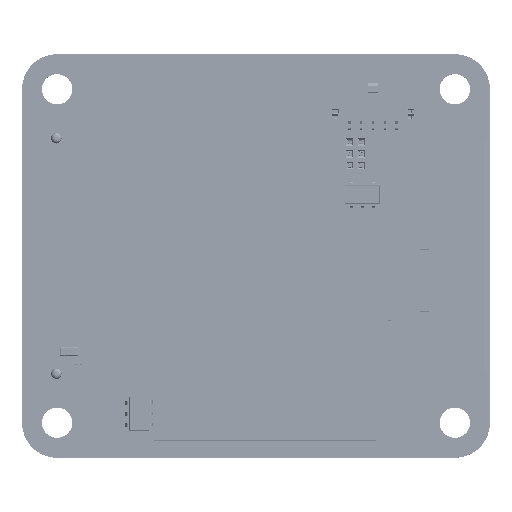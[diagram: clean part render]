
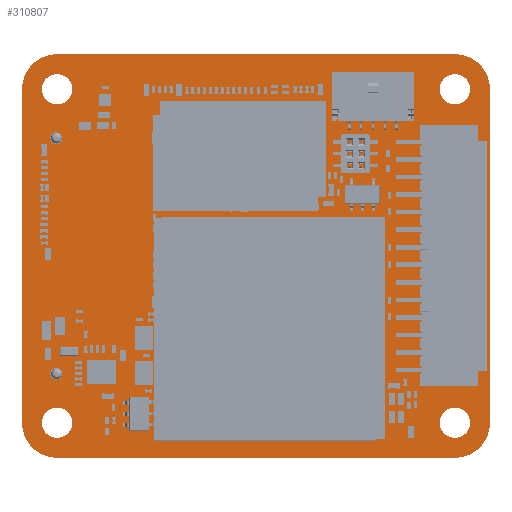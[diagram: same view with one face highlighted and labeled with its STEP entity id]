
A CAD part, top view. The second image highlights one B-rep face of the part: STEP entity #310807.
In plain terms, the highlighted planar face has unit normal (0, 0, 1).
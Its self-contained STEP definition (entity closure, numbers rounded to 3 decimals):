
#11452=FACE_BOUND('',#36674,.T.);
#11453=FACE_BOUND('',#36675,.T.);
#11454=FACE_BOUND('',#36676,.T.);
#11455=FACE_BOUND('',#36677,.T.);
#11456=FACE_BOUND('',#36678,.T.);
#11457=FACE_BOUND('',#36679,.T.);
#12910=CIRCLE('',#329365,3.001);
#12912=CIRCLE('',#329369,3.001);
#12914=CIRCLE('',#329373,3.001);
#12916=CIRCLE('',#329377,3.001);
#12918=CIRCLE('',#329380,1.3);
#12920=CIRCLE('',#329383,0.5);
#12922=CIRCLE('',#329386,1.3);
#12924=CIRCLE('',#329389,1.3);
#12926=CIRCLE('',#329392,0.5);
#12928=CIRCLE('',#329395,1.3);
#18998=FACE_OUTER_BOUND('',#36673,.T.);
#36673=EDGE_LOOP('',(#207009,#207010,#207011,#207012,#207013,#207014,#207015,
#207016));
#36674=EDGE_LOOP('',(#207017));
#36675=EDGE_LOOP('',(#207018));
#36676=EDGE_LOOP('',(#207019));
#36677=EDGE_LOOP('',(#207020));
#36678=EDGE_LOOP('',(#207021));
#36679=EDGE_LOOP('',(#207022));
#55786=LINE('',#434007,#94593);
#55790=LINE('',#434019,#94597);
#55794=LINE('',#434031,#94601);
#55798=LINE('',#434043,#94605);
#94593=VECTOR('',#351313,1.);
#94597=VECTOR('',#351325,1.);
#94601=VECTOR('',#351337,1.);
#94605=VECTOR('',#351349,1.);
#133400=VERTEX_POINT('',#434004);
#133401=VERTEX_POINT('',#434006);
#133403=VERTEX_POINT('',#434012);
#133405=VERTEX_POINT('',#434018);
#133407=VERTEX_POINT('',#434024);
#133409=VERTEX_POINT('',#434030);
#133411=VERTEX_POINT('',#434036);
#133413=VERTEX_POINT('',#434042);
#133415=VERTEX_POINT('',#434051);
#133417=VERTEX_POINT('',#434057);
#133419=VERTEX_POINT('',#434063);
#133421=VERTEX_POINT('',#434069);
#133423=VERTEX_POINT('',#434075);
#133425=VERTEX_POINT('',#434081);
#162548=EDGE_CURVE('',#133400,#133401,#55786,.T.);
#162551=EDGE_CURVE('',#133401,#133403,#12910,.T.);
#162554=EDGE_CURVE('',#133403,#133405,#55790,.T.);
#162557=EDGE_CURVE('',#133405,#133407,#12912,.T.);
#162560=EDGE_CURVE('',#133407,#133409,#55794,.T.);
#162563=EDGE_CURVE('',#133409,#133411,#12914,.T.);
#162566=EDGE_CURVE('',#133411,#133413,#55798,.T.);
#162569=EDGE_CURVE('',#133413,#133400,#12916,.T.);
#162571=EDGE_CURVE('',#133415,#133415,#12918,.T.);
#162574=EDGE_CURVE('',#133417,#133417,#12920,.T.);
#162577=EDGE_CURVE('',#133419,#133419,#12922,.T.);
#162580=EDGE_CURVE('',#133421,#133421,#12924,.T.);
#162583=EDGE_CURVE('',#133423,#133423,#12926,.T.);
#162586=EDGE_CURVE('',#133425,#133425,#12928,.T.);
#207009=ORIENTED_EDGE('',*,*,#162548,.F.);
#207010=ORIENTED_EDGE('',*,*,#162569,.F.);
#207011=ORIENTED_EDGE('',*,*,#162566,.F.);
#207012=ORIENTED_EDGE('',*,*,#162563,.F.);
#207013=ORIENTED_EDGE('',*,*,#162560,.F.);
#207014=ORIENTED_EDGE('',*,*,#162557,.F.);
#207015=ORIENTED_EDGE('',*,*,#162554,.F.);
#207016=ORIENTED_EDGE('',*,*,#162551,.F.);
#207017=ORIENTED_EDGE('',*,*,#162571,.F.);
#207018=ORIENTED_EDGE('',*,*,#162574,.F.);
#207019=ORIENTED_EDGE('',*,*,#162577,.F.);
#207020=ORIENTED_EDGE('',*,*,#162580,.F.);
#207021=ORIENTED_EDGE('',*,*,#162583,.F.);
#207022=ORIENTED_EDGE('',*,*,#162586,.F.);
#295727=PLANE('',#329398);
#310807=ADVANCED_FACE('',(#18998,#11452,#11453,#11454,#11455,#11456,#11457),
#295727,.F.);
#329365=AXIS2_PLACEMENT_3D('',#434013,#351318,#351319);
#329369=AXIS2_PLACEMENT_3D('',#434025,#351330,#351331);
#329373=AXIS2_PLACEMENT_3D('',#434037,#351342,#351343);
#329377=AXIS2_PLACEMENT_3D('',#434048,#351354,#351355);
#329380=AXIS2_PLACEMENT_3D('',#434052,#351360,#351361);
#329383=AXIS2_PLACEMENT_3D('',#434058,#351367,#351368);
#329386=AXIS2_PLACEMENT_3D('',#434064,#351374,#351375);
#329389=AXIS2_PLACEMENT_3D('',#434070,#351381,#351382);
#329392=AXIS2_PLACEMENT_3D('',#434076,#351388,#351389);
#329395=AXIS2_PLACEMENT_3D('',#434082,#351395,#351396);
#329398=AXIS2_PLACEMENT_3D('',#434087,#351402,#351403);
#351313=DIRECTION('',(0.,1.,0.));
#351318=DIRECTION('center_axis',(0.,0.,-1.));
#351319=DIRECTION('ref_axis',(-1.,0.,0.));
#351325=DIRECTION('',(1.,0.,0.));
#351330=DIRECTION('center_axis',(0.,0.,-1.));
#351331=DIRECTION('ref_axis',(0.,1.,0.));
#351337=DIRECTION('',(0.,-1.,0.));
#351342=DIRECTION('center_axis',(0.,0.,-1.));
#351343=DIRECTION('ref_axis',(1.,0.,0.));
#351349=DIRECTION('',(-1.,0.,0.));
#351354=DIRECTION('center_axis',(0.,0.,-1.));
#351355=DIRECTION('ref_axis',(0.,-1.,
0.));
#351360=DIRECTION('center_axis',(0.,0.,1.));
#351361=DIRECTION('ref_axis',(1.,0.,0.));
#351367=DIRECTION('center_axis',(0.,0.,1.));
#351368=DIRECTION('ref_axis',(1.,0.,0.));
#351374=DIRECTION('center_axis',(0.,0.,1.));
#351375=DIRECTION('ref_axis',(1.,0.,0.));
#351381=DIRECTION('center_axis',(0.,0.,1.));
#351382=DIRECTION('ref_axis',(1.,0.,0.));
#351388=DIRECTION('center_axis',(0.,0.,1.));
#351389=DIRECTION('ref_axis',(1.,0.,0.));
#351395=DIRECTION('center_axis',(0.,0.,1.));
#351396=DIRECTION('ref_axis',(1.,0.,0.));
#351402=DIRECTION('center_axis',(0.,0.,-1.));
#351403=DIRECTION('ref_axis',(-1.,0.,0.));
#434004=CARTESIAN_POINT('',(0.,3.,0.));
#434006=CARTESIAN_POINT('',(0.,31.5,0.));
#434007=CARTESIAN_POINT('',(0.,3.,0.));
#434012=CARTESIAN_POINT('',(3.,34.5,0.));
#434013=CARTESIAN_POINT('Origin',(3.001,31.499,0.));
#434018=CARTESIAN_POINT('',(37.,34.5,0.));
#434019=CARTESIAN_POINT('',(3.,34.5,0.));
#434024=CARTESIAN_POINT('',(40.,31.5,0.));
#434025=CARTESIAN_POINT('Origin',(36.999,31.499,0.));
#434030=CARTESIAN_POINT('',(40.,3.,0.));
#434031=CARTESIAN_POINT('',(40.,31.5,0.));
#434036=CARTESIAN_POINT('',(37.,0.,0.));
#434037=CARTESIAN_POINT('Origin',(36.999,3.001,0.));
#434042=CARTESIAN_POINT('',(3.,0.,0.));
#434043=CARTESIAN_POINT('',(37.,0.,0.));
#434048=CARTESIAN_POINT('Origin',(3.001,3.001,0.));
#434051=CARTESIAN_POINT('',(1.7,3.,0.));
#434052=CARTESIAN_POINT('Origin',(3.,3.,0.));
#434057=CARTESIAN_POINT('',(2.43,7.185,0.));
#434058=CARTESIAN_POINT('Origin',(2.93,7.185,0.));
#434063=CARTESIAN_POINT('',(1.7,31.5,0.));
#434064=CARTESIAN_POINT('Origin',(3.,31.5,0.));
#434069=CARTESIAN_POINT('',(35.7,3.,0.));
#434070=CARTESIAN_POINT('Origin',(37.,3.,0.));
#434075=CARTESIAN_POINT('',(2.43,27.315,0.));
#434076=CARTESIAN_POINT('Origin',(2.93,27.315,0.));
#434081=CARTESIAN_POINT('',(35.7,31.5,0.));
#434082=CARTESIAN_POINT('Origin',(37.,31.5,0.));
#434087=CARTESIAN_POINT('Origin',(20.,17.25,0.));
